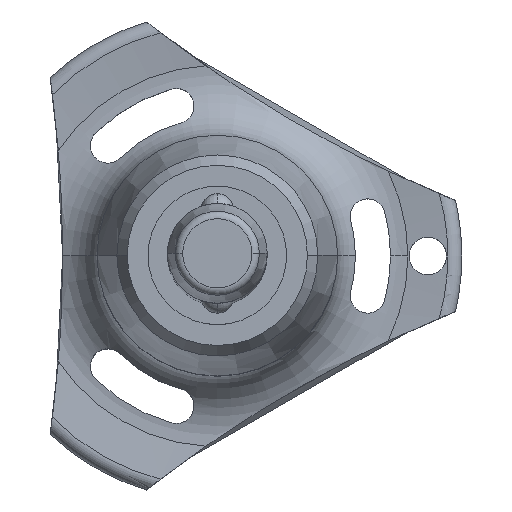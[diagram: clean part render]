
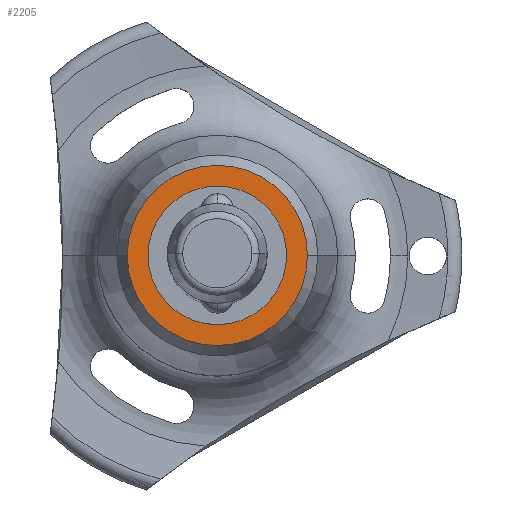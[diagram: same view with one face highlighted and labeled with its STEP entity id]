
A CAD part, top view. The second image highlights one B-rep face of the part: STEP entity #2205.
In plain terms, the highlighted planar face has unit normal (0, 0, 1).
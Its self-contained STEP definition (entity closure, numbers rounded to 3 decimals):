
#27 = DIRECTION ( 'NONE',  ( -1., 0., 0. ) ) ;
#43 = CARTESIAN_POINT ( 'NONE',  ( -5.554, 0., -90.6 ) ) ;
#45 = FACE_OUTER_BOUND ( 'NONE', #1639, .T. ) ;
#77 = ORIENTED_EDGE ( 'NONE', *, *, #2597, .F. ) ;
#83 = PLANE ( 'NONE',  #1045 ) ;
#87 = EDGE_CURVE ( 'NONE', #1638, #2555, #2191, .T. ) ;
#145 = VERTEX_POINT ( 'NONE', #1399 ) ;
#161 = DIRECTION ( 'NONE',  ( 0., 0., -1. ) ) ;
#201 = AXIS2_PLACEMENT_3D ( 'NONE', #933, #1328, #2169 ) ;
#235 = DIRECTION ( 'NONE',  ( -1., 0., 0. ) ) ;
#478 = CARTESIAN_POINT ( 'NONE',  ( 0., 0., -90.6 ) ) ;
#699 = CARTESIAN_POINT ( 'NONE',  ( 0., 5.554, -90.6 ) ) ;
#933 = CARTESIAN_POINT ( 'NONE',  ( 0., 0., -90.6 ) ) ;
#951 = VERTEX_POINT ( 'NONE', #1454 ) ;
#956 = AXIS2_PLACEMENT_3D ( 'NONE', #478, #1753, #235 ) ;
#1039 = EDGE_CURVE ( 'NONE', #951, #145, #2721, .T. ) ;
#1045 = AXIS2_PLACEMENT_3D ( 'NONE', #699, #1549, #1559 ) ;
#1176 = AXIS2_PLACEMENT_3D ( 'NONE', #2282, #161, #2656 ) ;
#1328 = DIRECTION ( 'NONE',  ( 0., 0., -1. ) ) ;
#1399 = CARTESIAN_POINT ( 'NONE',  ( -7.22, 0., -90.6 ) ) ;
#1454 = CARTESIAN_POINT ( 'NONE',  ( 7.22, 0., -90.6 ) ) ;
#1462 = ORIENTED_EDGE ( 'NONE', *, *, #87, .T. ) ;
#1506 = CARTESIAN_POINT ( 'NONE',  ( 0., 0., -90.6 ) ) ;
#1549 = DIRECTION ( 'NONE',  ( 0., 0., 1. ) ) ;
#1559 = DIRECTION ( 'NONE',  ( 1., 0., 0. ) ) ;
#1638 = VERTEX_POINT ( 'NONE', #2146 ) ;
#1639 = EDGE_LOOP ( 'NONE', ( #77, #1950 ) ) ;
#1747 = AXIS2_PLACEMENT_3D ( 'NONE', #1506, #1930, #27 ) ;
#1753 = DIRECTION ( 'NONE',  ( 0., 0., -1. ) ) ;
#1927 = CIRCLE ( 'NONE', #201, 5.554 ) ;
#1930 = DIRECTION ( 'NONE',  ( 0., 0., -1. ) ) ;
#1950 = ORIENTED_EDGE ( 'NONE', *, *, #1039, .F. ) ;
#1956 = EDGE_LOOP ( 'NONE', ( #2436, #1462 ) ) ;
#1987 = FACE_BOUND ( 'NONE', #1956, .T. ) ;
#2146 = CARTESIAN_POINT ( 'NONE',  ( 5.554, 0., -90.6 ) ) ;
#2169 = DIRECTION ( 'NONE',  ( -1., 0., 0. ) ) ;
#2191 = CIRCLE ( 'NONE', #1176, 5.554 ) ;
#2205 = ADVANCED_FACE ( 'NONE', ( #1987, #45 ), #83, .T. ) ;
#2220 = EDGE_CURVE ( 'NONE', #2555, #1638, #1927, .T. ) ;
#2282 = CARTESIAN_POINT ( 'NONE',  ( 0., 0., -90.6 ) ) ;
#2436 = ORIENTED_EDGE ( 'NONE', *, *, #2220, .T. ) ;
#2555 = VERTEX_POINT ( 'NONE', #43 ) ;
#2597 = EDGE_CURVE ( 'NONE', #145, #951, #2636, .T. ) ;
#2636 = CIRCLE ( 'NONE', #956, 7.22 ) ;
#2656 = DIRECTION ( 'NONE',  ( -1., 0., 0. ) ) ;
#2721 = CIRCLE ( 'NONE', #1747, 7.22 ) ;
